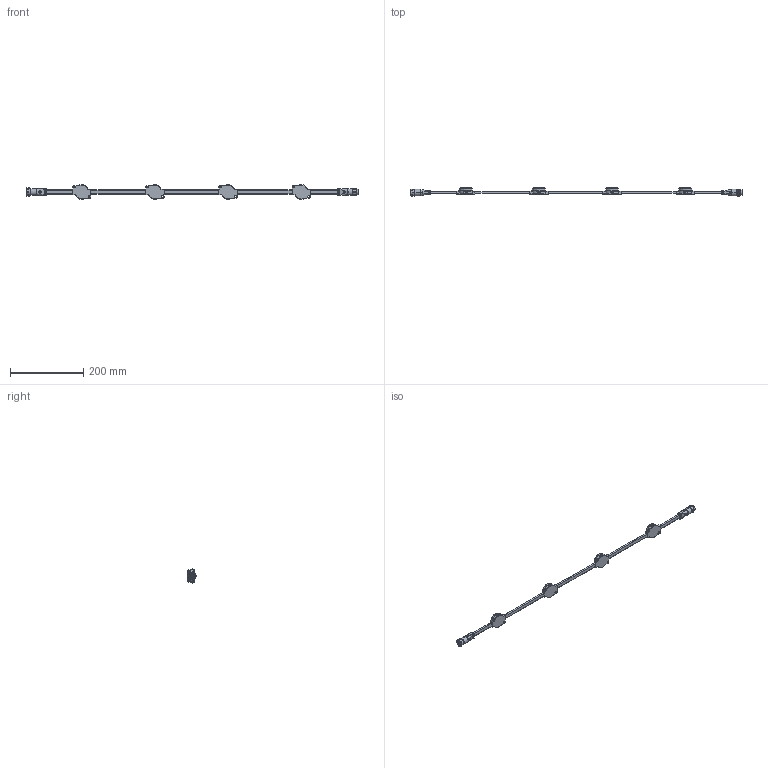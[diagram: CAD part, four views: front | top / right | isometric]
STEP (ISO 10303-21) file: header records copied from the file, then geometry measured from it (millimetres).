
FILE_DESCRIPTION (( 'STEP AP214' ), '1' );
FILE_NAME ('DiGi Module E3S.STEP', '2025-08-19T08:56:01', ( '' ), ( '' ), 'SwSTEP 2.0', 'SolidWorks 2025', '' );
FILE_SCHEMA (( 'AUTOMOTIVE_DESIGN' ));
Length unit declared in the file: millimetre
Products named in the file (6): DiGi Module E3S - Body; M16 3p Flat mold - Male; DiGi Module E3S - Cover; M16 3p Flat mold - Female; Part1^DiGi Module E3S; DiGi Module E3S
Assembly tree (11 placements, depth 2):
  DiGi Module E3S
    DiGi Module E3S - Body  x4
    DiGi Module E3S - Cover  x4
    M16 3p Flat mold - Male
    M16 3p Flat mold - Female
    Part1^DiGi Module E3S
Bounding box: 907.71 x 22.14 x 39.6 mm (x, y, z)
Volume: 118910.2 mm3; surface area: 63188.6 mm2
Topology: 31 solids, 31 shells, 1503 faces, 3675 edges, 2239 vertices
Faces by surface type: plane 526, cylinder 475, bspline 316, cone 108, torus 46, sphere 32
Full cylindrical faces by diameter (mm): 1.6 x3, 10.9 x1, 11.8 x1, 14.25 x1, 14.8 x1, 15.2 x1, 27.3 x4, 31.35 x8
Entity records: 64702 total; most frequent: CARTESIAN_POINT 36970, ORIENTED_EDGE 4790, DIRECTION 3526, EDGE_CURVE 2395, VERTEX_POINT 1471, AXIS2_PLACEMENT_3D 1328, EDGE_LOOP 1106, FACE_OUTER_BOUND 1040
